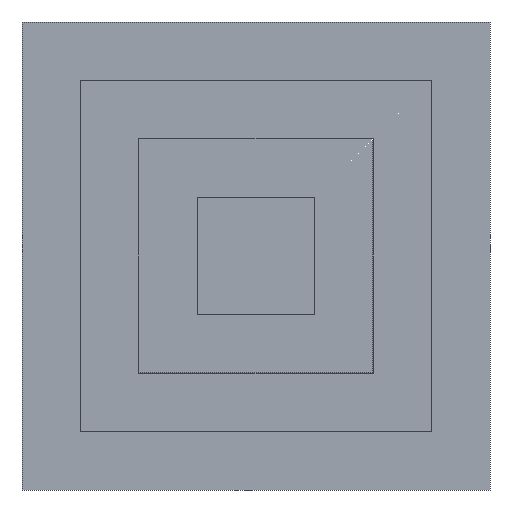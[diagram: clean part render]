
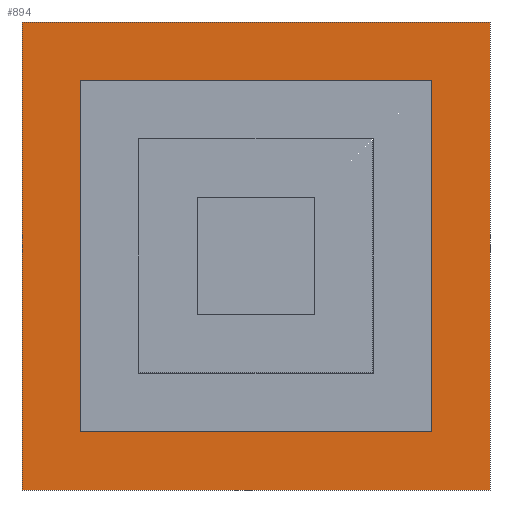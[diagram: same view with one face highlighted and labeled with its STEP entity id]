
A CAD part, front view. The second image highlights one B-rep face of the part: STEP entity #894.
In plain terms, the highlighted planar face has unit normal (0, -1, 0).
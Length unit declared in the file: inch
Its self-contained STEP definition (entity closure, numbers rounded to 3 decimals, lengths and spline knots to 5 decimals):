
#118=FACE_BOUND('',#182,.T.);
#132=FACE_OUTER_BOUND('',#181,.T.);
#181=EDGE_LOOP('',(#661,#662,#663,#664));
#182=EDGE_LOOP('',(#665,#666,#667,#668));
#225=LINE('',#1379,#333);
#229=LINE('',#1387,#337);
#232=LINE('',#1393,#340);
#235=LINE('',#1398,#343);
#237=LINE('',#1403,#345);
#241=LINE('',#1411,#349);
#244=LINE('',#1417,#352);
#247=LINE('',#1422,#355);
#333=VECTOR('',#1128,0.3937);
#337=VECTOR('',#1134,0.3937);
#340=VECTOR('',#1139,0.3937);
#343=VECTOR('',#1144,0.3937);
#345=VECTOR('',#1148,0.3937);
#349=VECTOR('',#1154,0.3937);
#352=VECTOR('',#1159,0.3937);
#355=VECTOR('',#1164,0.3937);
#441=VERTEX_POINT('',#1377);
#442=VERTEX_POINT('',#1378);
#445=VERTEX_POINT('',#1386);
#447=VERTEX_POINT('',#1392);
#449=VERTEX_POINT('',#1401);
#450=VERTEX_POINT('',#1402);
#453=VERTEX_POINT('',#1410);
#455=VERTEX_POINT('',#1416);
#513=EDGE_CURVE('',#441,#442,#225,.T.);
#517=EDGE_CURVE('',#445,#441,#229,.T.);
#520=EDGE_CURVE('',#447,#445,#232,.T.);
#523=EDGE_CURVE('',#442,#447,#235,.T.);
#525=EDGE_CURVE('',#449,#450,#237,.T.);
#529=EDGE_CURVE('',#453,#449,#241,.T.);
#532=EDGE_CURVE('',#455,#453,#244,.T.);
#535=EDGE_CURVE('',#450,#455,#247,.T.);
#661=ORIENTED_EDGE('',*,*,#535,.F.);
#662=ORIENTED_EDGE('',*,*,#525,.F.);
#663=ORIENTED_EDGE('',*,*,#529,.F.);
#664=ORIENTED_EDGE('',*,*,#532,.F.);
#665=ORIENTED_EDGE('',*,*,#523,.F.);
#666=ORIENTED_EDGE('',*,*,#513,.F.);
#667=ORIENTED_EDGE('',*,*,#517,.F.);
#668=ORIENTED_EDGE('',*,*,#520,.F.);
#846=PLANE('',#1061);
#894=ADVANCED_FACE('',(#132,#118),#846,.F.);
#1061=AXIS2_PLACEMENT_3D('',#1425,#1168,#1169);
#1128=DIRECTION('',(0.,0.,-1.));
#1134=DIRECTION('',(-1.,0.,0.));
#1139=DIRECTION('',(0.,0.,1.));
#1144=DIRECTION('',(1.,0.,0.));
#1148=DIRECTION('',(1.,0.,0.));
#1154=DIRECTION('',(0.,0.,1.));
#1159=DIRECTION('',(-1.,0.,0.));
#1164=DIRECTION('',(0.,0.,-1.));
#1168=DIRECTION('center_axis',(0.,1.,0.));
#1169=DIRECTION('ref_axis',(0.,0.,1.));
#1377=CARTESIAN_POINT('',(-36.,0.,36.));
#1378=CARTESIAN_POINT('',(-36.,0.,-36.));
#1379=CARTESIAN_POINT('',(-36.,0.,36.));
#1386=CARTESIAN_POINT('',(36.,0.,36.));
#1387=CARTESIAN_POINT('',(36.,0.,36.));
#1392=CARTESIAN_POINT('',(36.,0.,-36.));
#1393=CARTESIAN_POINT('',(36.,0.,-36.));
#1398=CARTESIAN_POINT('',(-36.,0.,-36.));
#1401=CARTESIAN_POINT('',(-48.,0.,48.));
#1402=CARTESIAN_POINT('',(48.,0.,48.));
#1403=CARTESIAN_POINT('',(-48.,0.,48.));
#1410=CARTESIAN_POINT('',(-48.,0.,-48.));
#1411=CARTESIAN_POINT('',(-48.,0.,-48.));
#1416=CARTESIAN_POINT('',(48.,0.,-48.));
#1417=CARTESIAN_POINT('',(48.,0.,-48.));
#1422=CARTESIAN_POINT('',(48.,0.,48.));
#1425=CARTESIAN_POINT('Origin',(0.,0.,0.));
